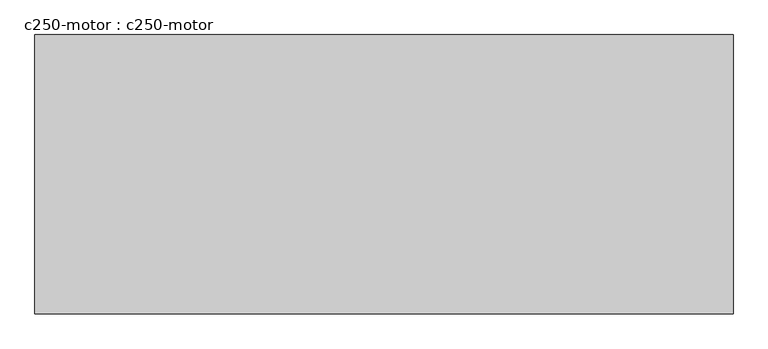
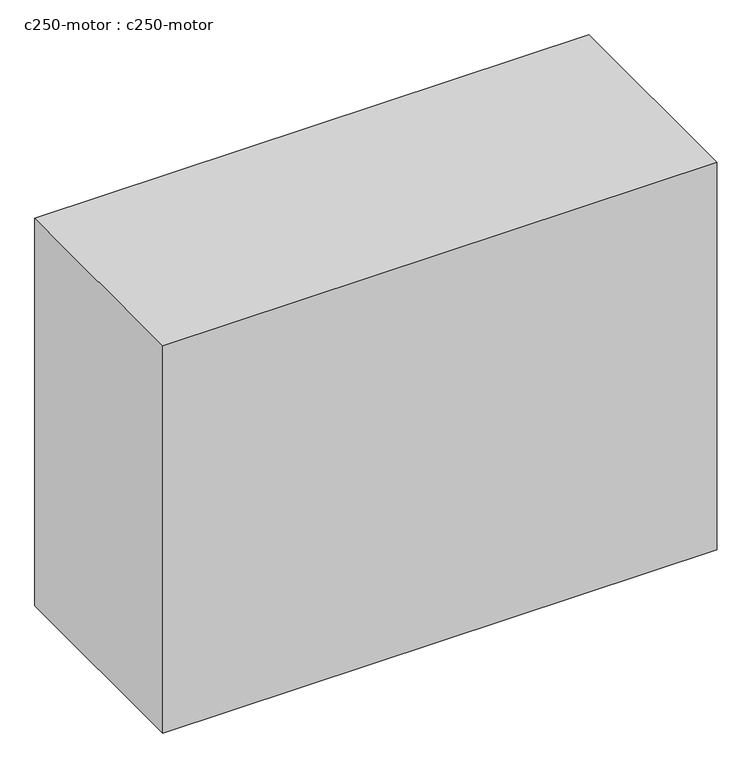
"""IFC4 building model written with IfcOpenShell, lengths in millimetres: proxy geometry, c250-motor : c250-motor."""

import ifcopenshell
import ifcopenshell.guid

model = None  # the IFC model being written
_history = None  # IfcOwnerHistory: only IFC2X3 demands one
_inside = {}  # id of a spatial element -> (the spatial element, [elements in it])
_under = {}  # id of a project, library or spatial element -> (it, [spatial elements below it])
_declared = {}  # id of a project -> (the project, [libraries it declares])
_typed = {}  # id of a type object -> (the type object, [elements of that type])
_made_of = {}  # id of a material, layer set ... -> (it, [elements and type objects made of it])


def new_model(schema):
    """Start an empty IFC model of exactly this schema.

    Asked for "IFC4X3", IfcOpenShell would pick the latest addendum, in which some entities
    have other attributes; the version numbers below select the first issue.
    IFC2X3 requires an IfcOwnerHistory on every rooted entity: one is made here for all.
    """
    global model, _history
    if schema == "IFC4X3":
        model = ifcopenshell.file(schema_version=(4, 3, 0, 0))
    else:
        model = ifcopenshell.file(schema=schema)
    _inside.clear()
    _under.clear()
    _declared.clear()
    _typed.clear()
    _made_of.clear()
    _history = None
    if model.schema == "IFC2X3":
        org = make("IfcOrganization", Name="unknown")
        user = make(
            "IfcPersonAndOrganization",
            ThePerson=make("IfcPerson", FamilyName="unknown"),
            TheOrganization=org,
        )
        app = make(
            "IfcApplication",
            ApplicationDeveloper=org,
            Version="unknown",
            ApplicationFullName="unknown",
            ApplicationIdentifier="unknown",
        )
        _history = make(
            "IfcOwnerHistory",
            OwningUser=user,
            OwningApplication=app,
            ChangeAction="ADDED",
            CreationDate=0,
        )
    return model


def make(cls, **values):
    """One entity of the class cls with the attributes given. An attribute that is None is left unset."""
    return model.create_entity(
        cls, **{name: value for name, value in values.items() if value is not None}
    )


def rooted(cls, **values):
    """An entity with a GlobalId (a new one), such as an element, a storey or a relation."""
    return make(cls, GlobalId=ifcopenshell.guid.new(), OwnerHistory=_history, **values)


def si_unit(unit_type, name, prefix=None):
    """IfcSIUnit, for example si_unit("LENGTHUNIT", "METRE", prefix="MILLI")."""
    return make("IfcSIUnit", UnitType=unit_type, Prefix=prefix, Name=name)


def assignment(units):
    """IfcUnitAssignment: the units of a project."""
    return None if units is None else make("IfcUnitAssignment", Units=units)


def point(xyz):
    """IfcCartesianPoint."""
    return None if xyz is None else make("IfcCartesianPoint", Coordinates=xyz)


def direction(xyz):
    """IfcDirection."""
    return None if xyz is None else make("IfcDirection", DirectionRatios=xyz)


def frame(location, z_axis=None, x_axis=None):
    """IfcAxis2Placement3D, a coordinate frame: its origin and axes. An axis left out is left unset."""
    return make(
        "IfcAxis2Placement3D",
        Location=point(location),
        Axis=direction(z_axis),
        RefDirection=direction(x_axis),
    )


def origin():
    """The frame at (0, 0, 0) with its axes left unset."""
    return frame((0.0, 0.0, 0.0))


def place(relative_to, where):
    """IfcLocalPlacement: puts the frame where relative to a parent placement (None: the world)."""
    return make(
        "IfcLocalPlacement", PlacementRelTo=relative_to, RelativePlacement=where
    )


def context(
    kind, dimensions, precision=None, world=None, true_north=None, identifier=None
):
    """IfcGeometricRepresentationContext, for example the 3D "Model" context."""
    return make(
        "IfcGeometricRepresentationContext",
        ContextIdentifier=identifier,
        ContextType=kind,
        CoordinateSpaceDimension=dimensions,
        Precision=precision,
        WorldCoordinateSystem=world,
        TrueNorth=true_north,
    )


def project(units=None, contexts=None):
    """IfcProject with its units and contexts."""
    return rooted(
        "IfcProject",
        Name="project",
        RepresentationContexts=contexts,
        UnitsInContext=assignment(units),
    )


def spatial(cls, under=None, at=None, **own):
    """A site, building, storey or space (cls), placed at a placement, below another one or the project."""
    s = rooted(cls, ObjectPlacement=at, **own)
    if under is not None:
        _under.setdefault(under.id(), (under, []))[1].append(s)
    return s


def polyline(points):
    """IfcPolyline through the points."""
    return make("IfcPolyline", Points=[point(p) for p in points])


def outline(outer, holes=None, kind="AREA"):
    """IfcArbitraryClosedProfileDef: a profile drawn as a closed curve; with holes, ...WithVoids."""
    if holes is None:
        return make("IfcArbitraryClosedProfileDef", ProfileType=kind, OuterCurve=outer)
    return make(
        "IfcArbitraryProfileDefWithVoids",
        ProfileType=kind,
        OuterCurve=outer,
        InnerCurves=holes,
    )


def extrude(swept, where, along, depth):
    """IfcExtrudedAreaSolid: the profile swept, set in the frame where, extruded along a direction by depth."""
    return make(
        "IfcExtrudedAreaSolid",
        SweptArea=swept,
        Position=where,
        ExtrudedDirection=direction(along),
        Depth=depth,
    )


def shape(context_of_items, identifier, shape_type, items):
    """IfcShapeRepresentation: the items that make up one representation, for example the "Body"."""
    return make(
        "IfcShapeRepresentation",
        ContextOfItems=context_of_items,
        RepresentationIdentifier=identifier,
        RepresentationType=shape_type,
        Items=items,
    )


def source(mapping_origin, context_of_items, identifier, shape_type, items):
    """IfcRepresentationMap: a shape defined once, which mapped items show again and again."""
    return make(
        "IfcRepresentationMap",
        MappingOrigin=mapping_origin,
        MappedRepresentation=shape(context_of_items, identifier, shape_type, items),
    )


def transform(
    local_origin,
    x_axis=None,
    y_axis=None,
    z_axis=None,
    scale=None,
    scale2=None,
    scale3=None,
    uniform=True,
):
    """IfcCartesianTransformationOperator3D, or its non-uniform kind. x_axis, y_axis, z_axis: its Axis1, 2, 3."""
    if uniform:
        return make(
            "IfcCartesianTransformationOperator3D",
            Axis1=direction(x_axis),
            Axis2=direction(y_axis),
            LocalOrigin=point(local_origin),
            Scale=scale,
            Axis3=direction(z_axis),
        )
    return make(
        "IfcCartesianTransformationOperator3DnonUniform",
        Axis1=direction(x_axis),
        Axis2=direction(y_axis),
        LocalOrigin=point(local_origin),
        Scale=scale,
        Axis3=direction(z_axis),
        Scale2=scale2,
        Scale3=scale3,
    )


def mapped(mapping_source, mapping_target):
    """IfcMappedItem: shows the shape of a source again, moved by a transform."""
    return make(
        "IfcMappedItem", MappingSource=mapping_source, MappingTarget=mapping_target
    )


def made_of(thing, what):
    """Note that an element or type object is made of a material, layer set ...; save() writes the relation."""
    if what is not None:
        _made_of.setdefault(what.id(), (what, []))[1].append(thing)
    return thing


def element(
    cls,
    number,
    at=None,
    inside=None,
    cuts=None,
    type_object=None,
    material=None,
    context=None,
    identifier="Body",
    shape_type=None,
    held_by="IfcProductDefinitionShape",
    body=None,
    shapes=None,
    **own,
):
    """One element of the class cls, such as IfcWall. Its Tag is "e" and its number.

    at: its placement. inside: the storey or other place that contains it. cuts: it is an
    opening in that element (IfcRelVoidsElement). A single representation is given by context,
    identifier, shape_type and body (its items); several are given by shapes. held_by: the class
    of the entity that holds the representations. save() writes the other relations.
    """
    e = rooted(cls, Tag="e%d" % number, ObjectPlacement=at, **own)
    if body is not None:
        shapes = [shape(context, identifier, shape_type, body)]
    if shapes is not None:
        e.Representation = make(held_by, Representations=shapes)
    if inside is not None:
        _inside.setdefault(inside.id(), (inside, []))[1].append(e)
    if cuts is not None:
        rooted(
            "IfcRelVoidsElement", RelatingBuildingElement=cuts, RelatedOpeningElement=e
        )
    if type_object is not None:
        _typed.setdefault(type_object.id(), (type_object, []))[1].append(e)
    return made_of(e, material)


def aggregate(whole, parts):
    """IfcRelAggregates: a whole, such as a stair, and the parts it consists of."""
    return rooted("IfcRelAggregates", RelatingObject=whole, RelatedObjects=parts)


def save(model, path):
    """Write the relations noted so far, then the file.

    IfcRelAggregates (storeys below a building ...), IfcRelContainedInSpatialStructure (elements
    in a storey), IfcRelDefinesByType, IfcRelAssociatesMaterial and IfcRelDeclares: one each for
    every whole, place, type object, material and project.
    """
    for whole, parts in _under.values():
        aggregate(whole, parts)
    for where, things in _inside.values():
        rooted(
            "IfcRelContainedInSpatialStructure",
            RelatedElements=things,
            RelatingStructure=where,
        )
    for kind, things in _typed.values():
        rooted("IfcRelDefinesByType", RelatedObjects=things, RelatingType=kind)
    for what, things in _made_of.values():
        rooted("IfcRelAssociatesMaterial", RelatedObjects=things, RelatingMaterial=what)
    for by, libraries in _declared.values():
        rooted("IfcRelDeclares", RelatingContext=by, RelatedDefinitions=libraries)
    model.write(path)


def c250_motor_c250_motor_a78cca54(model_context):
    return source(origin(), model_context, "Body", "SweptSolid", [
        extrude(outline(polyline([(-1459.1201889, 593.825118), (1366.8798111, 593.825118), (1366.8798111, -536.174882), (-1459.1201889, -536.174882), (-1459.1201889, 593.825118)])), frame((0.0, 0.0, -6049.6192086), z_axis=(0.0, 0.0, 1.0), x_axis=(1.0, 0.0, 0.0)), (0.0, 0.0, 1.0), 2089.0),
    ])


if __name__ == "__main__":
    model = new_model("IFC4")
    model_context = context("Model", 3, world=origin())
    ifc_project = project(units=[si_unit("LENGTHUNIT", "METRE", prefix="MILLI")], contexts=[model_context])
    site = spatial("IfcSite", under=ifc_project)
    building = spatial("IfcBuilding", under=site)
    placement = place(None, origin())
    c250_motor_c250_motor_shape = c250_motor_c250_motor_a78cca54(model_context)
    element("IfcBuildingElementProxy", 1, Name="c250-motor : c250-motor", ObjectType="c250-motor : c250-motor", at=placement, inside=building, context=model_context, shape_type="MappedRepresentation", body=[
        mapped(c250_motor_c250_motor_shape, transform((0.0, 0.0, 0.0), x_axis=(1.0, 0.0, 0.0), y_axis=(0.0, 1.0, 0.0), z_axis=(0.0, 0.0, 1.0))),
    ])
    save(model, "model.ifc")
